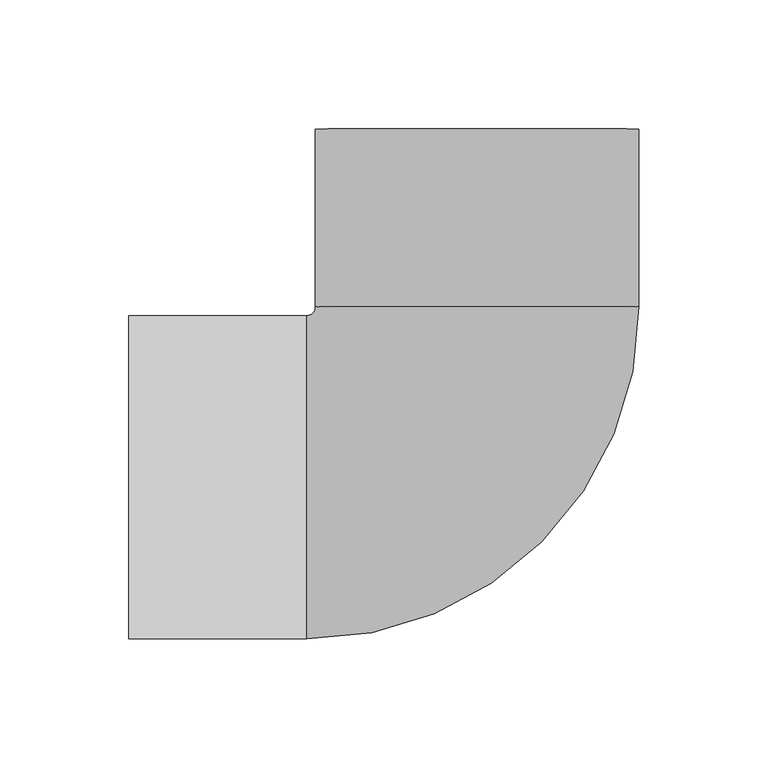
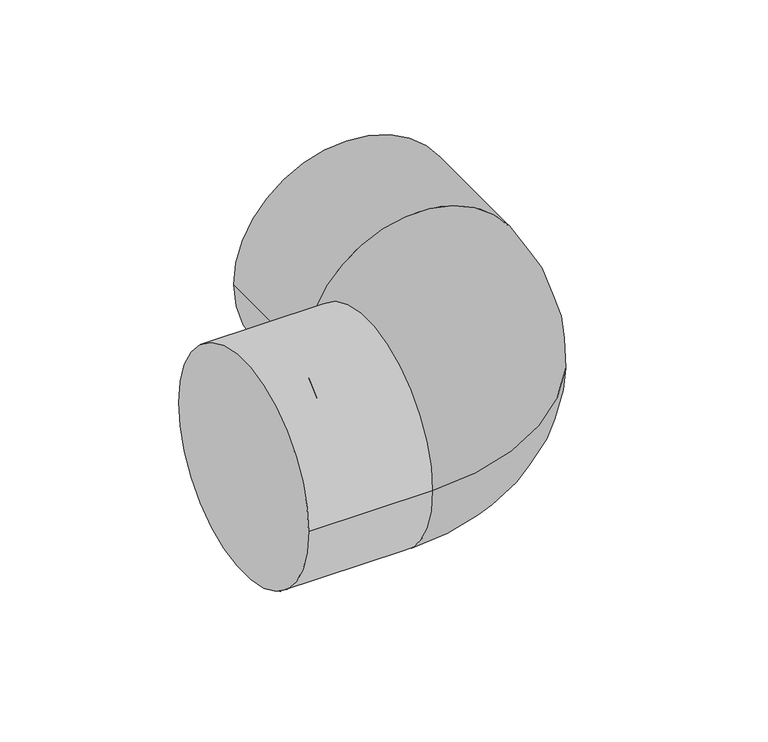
"""IFC4 building model written with IfcOpenShell, lengths in millimetres: pipe fitting geometry, 01051001 : Coudes à 90º."""

from ifc_helpers import new_model, si_unit, point, frame, origin, place, context, project, spatial, circle_curve, ellipse_curve, trimmed, source, transform, mapped, element, save
from ifc_brep_helpers import plane_surface, cylinder_surface, revolved_surface, advanced_brep


def pipe_fitting_5cd442cf(model_context):
    return source(origin(), model_context, "Body", "AdvancedBrep", [
        advanced_brep(
        [(-66.0, -62.7, 0.0), (62.7, 66.0, 0.0), (-62.7, 66.0, 0.0), (-66.0, 62.7, 0.0), (-62.7, 135.0, 0.0), (62.7, 135.0, 0.0), (-135.0, 62.7, 0.0), (-135.0, -62.7, 0.0)],
        [
            (0, 1, circle_curve(frame((-66.0, 66.0, 0.0), z_axis=(0.0, 0.0, 1.0), x_axis=(1.0, 0.0, 0.0)), 128.7)),
            (1, 2, circle_curve(frame((0.0, 66.0, 0.0), z_axis=(0.0, -1.0, 0.0), x_axis=(1.0, 0.0, 0.0)), 62.7)),
            (2, 3, circle_curve(frame((-66.0, 66.0, 0.0), z_axis=(0.0, 0.0, -1.0), x_axis=(1.0, 0.0, 0.0)), 3.3)),
            (3, 0, circle_curve(frame((-66.0, 0.0, 0.0), z_axis=(1.0, 0.0, 0.0), x_axis=(0.0, -1.0, 0.0)), 62.7)),
            (2, 1, circle_curve(frame((0.0, 66.0, 0.0), z_axis=(0.0, -1.0, 0.0), x_axis=(1.0, 0.0, 0.0)), 62.7)),
            (0, 3, circle_curve(frame((-66.0, 0.0, 0.0), z_axis=(1.0, 0.0, 0.0), x_axis=(0.0, -1.0, 0.0)), 62.7)),
            (4, 5, circle_curve(frame((0.0, 135.0, 0.0), z_axis=(0.0, 1.0, 0.0), x_axis=(1.0, 0.0, 0.0)), 62.7)),
            (5, 4, circle_curve(frame((0.0, 135.0, 0.0), z_axis=(0.0, 1.0, 0.0), x_axis=(1.0, 0.0, 0.0)), 62.7)),
            (4, 2),
            (1, 5),
            (6, 7, circle_curve(frame((-135.0, 0.0, 0.0), z_axis=(-1.0, 0.0, 0.0), x_axis=(0.0, -1.0, 0.0)), 62.7)),
            (7, 6, circle_curve(frame((-135.0, 0.0, 0.0), z_axis=(-1.0, 0.0, 0.0), x_axis=(0.0, -1.0, 0.0)), 62.7)),
            (3, 6),
            (7, 0),
        ],
        [
            revolved_surface(trimmed(ellipse_curve(frame((0.0, 66.0, 0.0), z_axis=(0.0, 1.0, 0.0), x_axis=(1.0, 0.0, 0.0)), 62.7, 62.7), [point((-62.7, 66.0, 0.0))], [point((62.7, 66.0, 0.0))], True, "CARTESIAN"), (-66.0, 66.0, 0.0), (0.0, 0.0, -1.0)),
            revolved_surface(trimmed(ellipse_curve(frame((0.0, 66.0, 0.0), z_axis=(0.0, 1.0, 0.0), x_axis=(1.0, 0.0, 0.0)), 62.7, 62.7), [point((62.7, 66.0, 0.0))], [point((-62.7, 66.0, 0.0))], True, "CARTESIAN"), (-66.0, 66.0, 0.0), (0.0, 0.0, -1.0)),
            plane_surface(frame((0.0, 135.0, 0.0), z_axis=(0.0, 1.0, 0.0), x_axis=(0.0, 0.0, 1.0))),
            cylinder_surface(frame((0.0, 135.0, 0.0), z_axis=(0.0, 1.0, 0.0), x_axis=(1.0, 0.0, 0.0)), 62.7),
            plane_surface(frame((-135.0, 0.0, 0.0), z_axis=(-1.0, 0.0, 0.0), x_axis=(0.0, 0.0, 1.0))),
            cylinder_surface(frame((-66.0, 0.0, 0.0), z_axis=(1.0, 0.0, 0.0), x_axis=(0.0, -1.0, 0.0)), 62.7),
        ],
        [
            (0, [[1, 2, 3, 4]]),
            (1, [[-3, 5, -1, 6]]),
            (2, [[7, 8]]),
            (3, [[-7, 9, -2, 10]]),
            (3, [[-8, -10, -5, -9]]),
            (4, [[11, 12]]),
            (5, [[-4, 13, -12, 14]]),
            (5, [[-6, -14, -11, -13]]),
        ],
    ),
    ])


if __name__ == "__main__":
    model = new_model("IFC4")
    model_context = context("Model", 3, world=origin())
    ifc_project = project(units=[si_unit("LENGTHUNIT", "METRE", prefix="MILLI")], contexts=[model_context])
    site = spatial("IfcSite", under=ifc_project)
    building = spatial("IfcBuilding", under=site)
    placement = place(None, origin())
    pipe_fitting_shape = pipe_fitting_5cd442cf(model_context)
    element("IfcPipeFitting", 1, ObjectType="01051001 : Coudes à 90º", at=placement, inside=building, context=model_context, shape_type="MappedRepresentation", body=[
        mapped(pipe_fitting_shape, transform((0.0, 0.0, 0.0), x_axis=(1.0, 0.0, 0.0), y_axis=(0.0, 1.0, 0.0), z_axis=(0.0, 0.0, 1.0))),
    ])
    save(model, "model.ifc")
